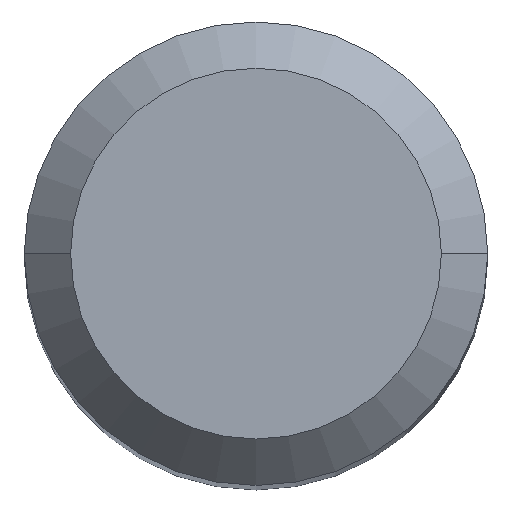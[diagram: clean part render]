
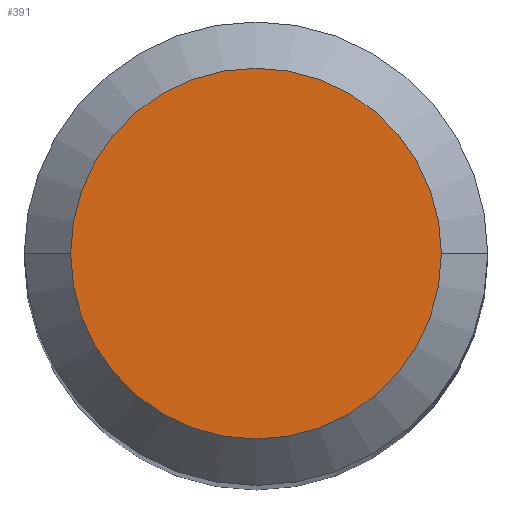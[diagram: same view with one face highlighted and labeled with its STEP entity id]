
A CAD part, top view. The second image highlights one B-rep face of the part: STEP entity #391.
In plain terms, the highlighted planar face has unit normal (0, 0, 1).
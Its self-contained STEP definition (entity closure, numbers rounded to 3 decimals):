
#22 = DIRECTION ( 'NONE',  ( 0., 0., 1. ) ) ;
#25 = DIRECTION ( 'NONE',  ( -1., 0., 0. ) ) ;
#90 = CARTESIAN_POINT ( 'NONE',  ( 0., 0., 0. ) ) ;
#104 = DIRECTION ( 'NONE',  ( 1., 0., 0. ) ) ;
#140 = CARTESIAN_POINT ( 'NONE',  ( 2.4, 0., 0. ) ) ;
#147 = FACE_OUTER_BOUND ( 'NONE', #302, .T. ) ;
#199 = CARTESIAN_POINT ( 'NONE',  ( 0., 2.4, 0. ) ) ;
#222 = EDGE_CURVE ( 'NONE', #429, #260, #229, .T. ) ;
#229 = CIRCLE ( 'NONE', #427, 2.4 ) ;
#241 = CIRCLE ( 'NONE', #528, 2.4 ) ;
#260 = VERTEX_POINT ( 'NONE', #140 ) ;
#290 = ORIENTED_EDGE ( 'NONE', *, *, #222, .F. ) ;
#302 = EDGE_LOOP ( 'NONE', ( #290, #444 ) ) ;
#315 = EDGE_CURVE ( 'NONE', #260, #429, #241, .T. ) ;
#359 = AXIS2_PLACEMENT_3D ( 'NONE', #199, #22, #104 ) ;
#367 = DIRECTION ( 'NONE',  ( 0., 0., -1. ) ) ;
#378 = CARTESIAN_POINT ( 'NONE',  ( -2.4, 0., 0. ) ) ;
#391 = ADVANCED_FACE ( 'NONE', ( #147 ), #458, .T. ) ;
#416 = CARTESIAN_POINT ( 'NONE',  ( 0., 0., 0. ) ) ;
#427 = AXIS2_PLACEMENT_3D ( 'NONE', #90, #478, #476 ) ;
#429 = VERTEX_POINT ( 'NONE', #378 ) ;
#444 = ORIENTED_EDGE ( 'NONE', *, *, #315, .F. ) ;
#458 = PLANE ( 'NONE',  #359 ) ;
#476 = DIRECTION ( 'NONE',  ( -1., 0., 0. ) ) ;
#478 = DIRECTION ( 'NONE',  ( 0., 0., -1. ) ) ;
#528 = AXIS2_PLACEMENT_3D ( 'NONE', #416, #367, #25 ) ;
